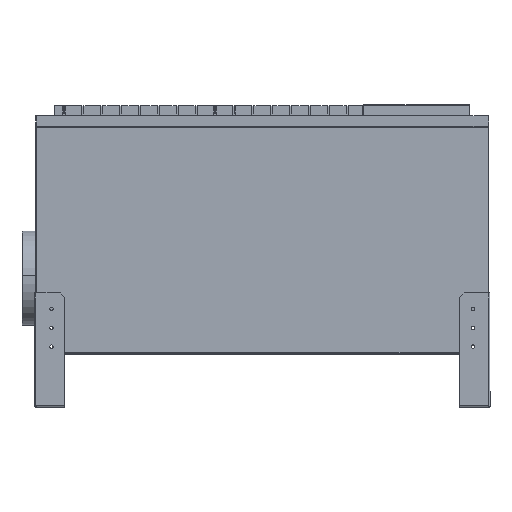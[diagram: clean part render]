
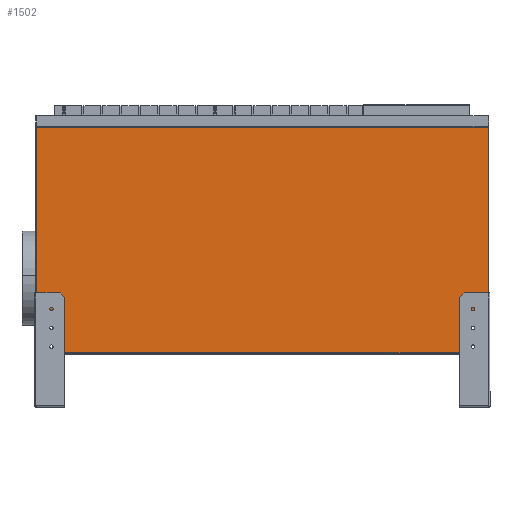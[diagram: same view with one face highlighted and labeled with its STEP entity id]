
A CAD part, front view. The second image highlights one B-rep face of the part: STEP entity #1502.
In plain terms, the highlighted planar face has unit normal (0, -1, 0).
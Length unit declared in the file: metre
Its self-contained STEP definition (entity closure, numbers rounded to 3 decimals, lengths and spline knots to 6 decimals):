
#1502=ADVANCED_FACE('0:1887',(#3080,#3081,#3082,#3083,#3084),#3085,.F.);
#3080=FACE_OUTER_BOUND('',#5091,.T.);
#3081=FACE_BOUND('',#5092,.T.);
#3082=FACE_BOUND('',#5093,.T.);
#3083=FACE_BOUND('',#5094,.T.);
#3084=FACE_BOUND('',#5095,.T.);
#3085=PLANE('',#5096);
#5091=EDGE_LOOP('',(#8290,#8291,#8292,#8293));
#5092=EDGE_LOOP('',(#8294,#8295,#8296,#8297,#8298,#8299));
#5093=EDGE_LOOP('',(#8300,#8301,#8302,#8303,#8304,#8305));
#5094=EDGE_LOOP('',(#8306,#8307,#8308,#8309,#8310,#8311));
#5095=EDGE_LOOP('',(#8312,#8313,#8314,#8315,#8316,#8317));
#5096=AXIS2_PLACEMENT_3D('',#8318,#8319,#8320);
#8290=ORIENTED_EDGE('',*,*,#12798,.F.);
#8291=ORIENTED_EDGE('',*,*,#12799,.F.);
#8292=ORIENTED_EDGE('',*,*,#12800,.F.);
#8293=ORIENTED_EDGE('',*,*,#12801,.F.);
#8294=ORIENTED_EDGE('',*,*,#12776,.T.);
#8295=ORIENTED_EDGE('',*,*,#12796,.T.);
#8296=ORIENTED_EDGE('',*,*,#12792,.T.);
#8297=ORIENTED_EDGE('',*,*,#12788,.T.);
#8298=ORIENTED_EDGE('',*,*,#12784,.T.);
#8299=ORIENTED_EDGE('',*,*,#12780,.T.);
#8300=ORIENTED_EDGE('',*,*,#12752,.T.);
#8301=ORIENTED_EDGE('',*,*,#12772,.T.);
#8302=ORIENTED_EDGE('',*,*,#12768,.T.);
#8303=ORIENTED_EDGE('',*,*,#12764,.T.);
#8304=ORIENTED_EDGE('',*,*,#12760,.T.);
#8305=ORIENTED_EDGE('',*,*,#12756,.T.);
#8306=ORIENTED_EDGE('',*,*,#12728,.T.);
#8307=ORIENTED_EDGE('',*,*,#12748,.T.);
#8308=ORIENTED_EDGE('',*,*,#12744,.T.);
#8309=ORIENTED_EDGE('',*,*,#12740,.T.);
#8310=ORIENTED_EDGE('',*,*,#12736,.T.);
#8311=ORIENTED_EDGE('',*,*,#12732,.T.);
#8312=ORIENTED_EDGE('',*,*,#12704,.T.);
#8313=ORIENTED_EDGE('',*,*,#12724,.T.);
#8314=ORIENTED_EDGE('',*,*,#12720,.T.);
#8315=ORIENTED_EDGE('',*,*,#12716,.T.);
#8316=ORIENTED_EDGE('',*,*,#12712,.T.);
#8317=ORIENTED_EDGE('',*,*,#12708,.T.);
#8318=CARTESIAN_POINT('',(0.63187,0.0,0.3815));
#8319=DIRECTION('',(0.0,1.0,0.0));
#8320=DIRECTION('',(-1.0,0.0,0.));
#12704=EDGE_CURVE('0:2072',#15240,#15238,#15241,.T.);
#12708=EDGE_CURVE('0:2081',#15246,#15240,#15247,.T.);
#12712=EDGE_CURVE('0:2090',#15252,#15246,#15253,.T.);
#12716=EDGE_CURVE('0:2099',#15258,#15252,#15259,.T.);
#12720=EDGE_CURVE('0:2108',#15264,#15258,#15265,.T.);
#12724=EDGE_CURVE('0:2117',#15238,#15264,#15269,.T.);
#12728=EDGE_CURVE('0:2126',#15276,#15274,#15277,.T.);
#12732=EDGE_CURVE('0:2135',#15282,#15276,#15283,.T.);
#12736=EDGE_CURVE('0:2144',#15288,#15282,#15289,.T.);
#12740=EDGE_CURVE('0:2153',#15294,#15288,#15295,.T.);
#12744=EDGE_CURVE('0:2162',#15300,#15294,#15301,.T.);
#12748=EDGE_CURVE('0:2171',#15274,#15300,#15305,.T.);
#12752=EDGE_CURVE('0:2180',#15312,#15310,#15313,.T.);
#12756=EDGE_CURVE('0:2189',#15318,#15312,#15319,.T.);
#12760=EDGE_CURVE('0:2198',#15324,#15318,#15325,.T.);
#12764=EDGE_CURVE('0:2207',#15330,#15324,#15331,.T.);
#12768=EDGE_CURVE('0:2216',#15336,#15330,#15337,.T.);
#12772=EDGE_CURVE('0:2225',#15310,#15336,#15341,.T.);
#12776=EDGE_CURVE('0:2234',#15348,#15346,#15349,.T.);
#12780=EDGE_CURVE('0:2243',#15354,#15348,#15355,.T.);
#12784=EDGE_CURVE('0:2252',#15360,#15354,#15361,.T.);
#12788=EDGE_CURVE('0:2261',#15366,#15360,#15367,.T.);
#12792=EDGE_CURVE('0:2270',#15372,#15366,#15373,.T.);
#12796=EDGE_CURVE('0:2279',#15346,#15372,#15377,.T.);
#12798=EDGE_CURVE('0:2282',#15379,#15380,#15381,.T.);
#12799=EDGE_CURVE('0:2285',#15382,#15379,#15383,.T.);
#12800=EDGE_CURVE('0:2288',#15384,#15382,#15385,.T.);
#12801=EDGE_CURVE('0:2291',#15380,#15384,#15386,.T.);
#15238=VERTEX_POINT('',#18840);
#15240=VERTEX_POINT('',#18843);
#15241=LINE('',#18844,#18845);
#15246=VERTEX_POINT('',#18852);
#15247=LINE('',#18853,#18854);
#15252=VERTEX_POINT('',#18861);
#15253=LINE('',#18862,#18863);
#15258=VERTEX_POINT('',#18870);
#15259=LINE('',#18871,#18872);
#15264=VERTEX_POINT('',#18879);
#15265=LINE('',#18880,#18881);
#15269=LINE('',#18887,#18888);
#15274=VERTEX_POINT('',#18894);
#15276=VERTEX_POINT('',#18897);
#15277=LINE('',#18898,#18899);
#15282=VERTEX_POINT('',#18906);
#15283=LINE('',#18907,#18908);
#15288=VERTEX_POINT('',#18915);
#15289=LINE('',#18916,#18917);
#15294=VERTEX_POINT('',#18924);
#15295=LINE('',#18925,#18926);
#15300=VERTEX_POINT('',#18933);
#15301=LINE('',#18934,#18935);
#15305=LINE('',#18941,#18942);
#15310=VERTEX_POINT('',#18948);
#15312=VERTEX_POINT('',#18951);
#15313=LINE('',#18952,#18953);
#15318=VERTEX_POINT('',#18960);
#15319=LINE('',#18961,#18962);
#15324=VERTEX_POINT('',#18969);
#15325=LINE('',#18970,#18971);
#15330=VERTEX_POINT('',#18978);
#15331=LINE('',#18979,#18980);
#15336=VERTEX_POINT('',#18987);
#15337=LINE('',#18988,#18989);
#15341=LINE('',#18995,#18996);
#15346=VERTEX_POINT('',#19002);
#15348=VERTEX_POINT('',#19005);
#15349=LINE('',#19006,#19007);
#15354=VERTEX_POINT('',#19014);
#15355=LINE('',#19015,#19016);
#15360=VERTEX_POINT('',#19023);
#15361=LINE('',#19024,#19025);
#15366=VERTEX_POINT('',#19032);
#15367=LINE('',#19033,#19034);
#15372=VERTEX_POINT('',#19041);
#15373=LINE('',#19042,#19043);
#15377=LINE('',#19049,#19050);
#15379=VERTEX_POINT('',#19052);
#15380=VERTEX_POINT('',#19053);
#15381=LINE('',#19054,#19055);
#15382=VERTEX_POINT('',#19056);
#15383=LINE('',#19057,#19058);
#15384=VERTEX_POINT('',#19059);
#15385=LINE('',#19060,#19061);
#15386=LINE('',#19062,#19063);
#18840=CARTESIAN_POINT('',(0.06637,0.0,0.147075));
#18843=CARTESIAN_POINT('',(0.07187,0.0,0.1439));
#18844=CARTESIAN_POINT('',(0.229053,0.0,0.05315));
#18845=VECTOR('',#22467,0.01);
#18852=CARTESIAN_POINT('',(0.07737,0.0,0.147075));
#18853=CARTESIAN_POINT('',(0.334687,0.0,0.295637));
#18854=VECTOR('',#22470,0.01);
#18861=CARTESIAN_POINT('',(0.07737,0.0,0.153426));
#18862=CARTESIAN_POINT('',(0.07737,0.0,0.265875));
#18863=VECTOR('',#22473,0.01);
#18870=CARTESIAN_POINT('',(0.07187,0.0,0.156601));
#18871=CARTESIAN_POINT('',(0.234553,0.0,0.062676));
#18872=VECTOR('',#22476,0.01);
#18879=CARTESIAN_POINT('',(0.06637,0.0,0.153426));
#18880=CARTESIAN_POINT('',(0.329187,0.0,0.305163));
#18881=VECTOR('',#22479,0.01);
#18887=CARTESIAN_POINT('',(0.06637,0.0,0.265875));
#18888=VECTOR('',#22482,0.01);
#18894=CARTESIAN_POINT('',(1.18637,0.0,0.147075));
#18897=CARTESIAN_POINT('',(1.19187,0.0,0.1439));
#18898=CARTESIAN_POINT('',(0.929053,0.0,0.295637));
#18899=VECTOR('',#22485,0.01);
#18906=CARTESIAN_POINT('',(1.19737,0.0,0.147075));
#18907=CARTESIAN_POINT('',(1.034687,0.0,0.05315));
#18908=VECTOR('',#22488,0.01);
#18915=CARTESIAN_POINT('',(1.19737,0.0,0.153426));
#18916=CARTESIAN_POINT('',(1.19737,0.0,0.265875));
#18917=VECTOR('',#22491,0.01);
#18924=CARTESIAN_POINT('',(1.19187,0.0,0.156601));
#18925=CARTESIAN_POINT('',(0.934553,0.0,0.305163));
#18926=VECTOR('',#22494,0.01);
#18933=CARTESIAN_POINT('',(1.18637,0.0,0.153426));
#18934=CARTESIAN_POINT('',(1.029187,0.0,0.062676));
#18935=VECTOR('',#22497,0.01);
#18941=CARTESIAN_POINT('',(1.18637,0.0,0.265875));
#18942=VECTOR('',#22500,0.01);
#18948=CARTESIAN_POINT('',(1.18637,0.0,0.097075));
#18951=CARTESIAN_POINT('',(1.19187,0.0,0.0939));
#18952=CARTESIAN_POINT('',(0.918228,0.0,0.251887));
#18953=VECTOR('',#22503,0.01);
#18960=CARTESIAN_POINT('',(1.19737,0.0,0.097075));
#18961=CARTESIAN_POINT('',(1.045512,0.0,0.0094));
#18962=VECTOR('',#22506,0.01);
#18969=CARTESIAN_POINT('',(1.19737,0.0,0.103426));
#18970=CARTESIAN_POINT('',(1.19737,0.0,0.240875));
#18971=VECTOR('',#22509,0.01);
#18978=CARTESIAN_POINT('',(1.19187,0.0,0.106601));
#18979=CARTESIAN_POINT('',(0.923728,0.0,0.261413));
#18980=VECTOR('',#22512,0.01);
#18987=CARTESIAN_POINT('',(1.18637,0.0,0.103426));
#18988=CARTESIAN_POINT('',(1.040012,0.0,0.018926));
#18989=VECTOR('',#22515,0.01);
#18995=CARTESIAN_POINT('',(1.18637,0.0,0.240875));
#18996=VECTOR('',#22518,0.01);
#19002=CARTESIAN_POINT('',(0.06637,0.0,0.097075));
#19005=CARTESIAN_POINT('',(0.07187,0.0,0.0939));
#19006=CARTESIAN_POINT('',(0.218228,0.0,0.0094));
#19007=VECTOR('',#22521,0.01);
#19014=CARTESIAN_POINT('',(0.07737,0.0,0.097075));
#19015=CARTESIAN_POINT('',(0.345512,0.0,0.251887));
#19016=VECTOR('',#22524,0.01);
#19023=CARTESIAN_POINT('',(0.07737,0.0,0.103426));
#19024=CARTESIAN_POINT('',(0.07737,0.0,0.240875));
#19025=VECTOR('',#22527,0.01);
#19032=CARTESIAN_POINT('',(0.07187,0.0,0.106601));
#19033=CARTESIAN_POINT('',(0.223728,0.0,0.018926));
#19034=VECTOR('',#22530,0.01);
#19041=CARTESIAN_POINT('',(0.06637,0.0,0.103426));
#19042=CARTESIAN_POINT('',(0.340012,0.0,0.261413));
#19043=VECTOR('',#22533,0.01);
#19049=CARTESIAN_POINT('',(0.06637,0.0,0.240875));
#19050=VECTOR('',#22536,0.01);
#19052=CARTESIAN_POINT('',(0.033745,0.0,0.679625));
#19053=CARTESIAN_POINT('',(1.229995,0.0,0.679625));
#19054=CARTESIAN_POINT('',(0.63187,0.0,0.679625));
#19055=VECTOR('',#22537,0.01);
#19056=CARTESIAN_POINT('',(0.033745,0.0,0.083375));
#19057=CARTESIAN_POINT('',(0.033745,0.0,0.3815));
#19058=VECTOR('',#22538,0.01);
#19059=CARTESIAN_POINT('',(1.229995,0.0,0.083375));
#19060=CARTESIAN_POINT('',(0.63187,0.0,0.083375));
#19061=VECTOR('',#22539,0.01);
#19062=CARTESIAN_POINT('',(1.229995,0.0,0.3815));
#19063=VECTOR('',#22540,0.01);
#22467=DIRECTION('',(-0.866,0.0,0.5));
#22470=DIRECTION('',(-0.866,0.0,-0.5));
#22473=DIRECTION('',(0.,0.0,-1.0));
#22476=DIRECTION('',(0.866,0.0,-0.5));
#22479=DIRECTION('',(0.866,0.0,0.5));
#22482=DIRECTION('',(0.,0.0,1.0));
#22485=DIRECTION('',(-0.866,0.0,0.5));
#22488=DIRECTION('',(-0.866,0.0,-0.5));
#22491=DIRECTION('',(0.,0.0,-1.0));
#22494=DIRECTION('',(0.866,0.0,-0.5));
#22497=DIRECTION('',(0.866,0.0,0.5));
#22500=DIRECTION('',(0.,0.0,1.0));
#22503=DIRECTION('',(-0.866,0.0,0.5));
#22506=DIRECTION('',(-0.866,0.0,-0.5));
#22509=DIRECTION('',(0.,0.0,-1.0));
#22512=DIRECTION('',(0.866,0.0,-0.5));
#22515=DIRECTION('',(0.866,0.0,0.5));
#22518=DIRECTION('',(0.,0.0,1.0));
#22521=DIRECTION('',(-0.866,0.0,0.5));
#22524=DIRECTION('',(-0.866,0.0,-0.5));
#22527=DIRECTION('',(0.,0.0,-1.0));
#22530=DIRECTION('',(0.866,0.0,-0.5));
#22533=DIRECTION('',(0.866,0.0,0.5));
#22536=DIRECTION('',(0.,0.0,1.0));
#22537=DIRECTION('',(1.0,0.0,0.));
#22538=DIRECTION('',(0.,0.0,1.0));
#22539=DIRECTION('',(-1.0,0.0,0.));
#22540=DIRECTION('',(0.,0.0,-1.0));
